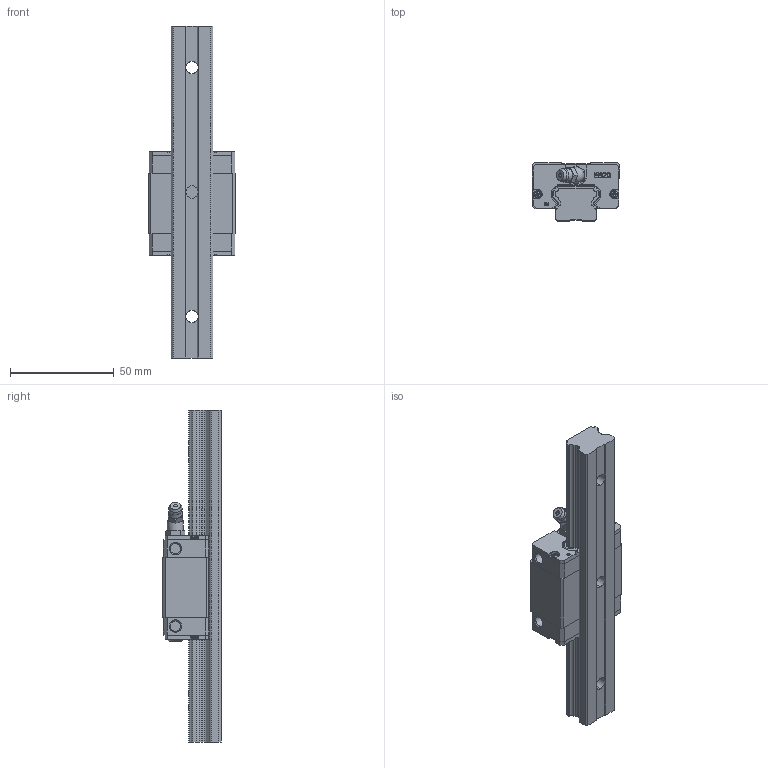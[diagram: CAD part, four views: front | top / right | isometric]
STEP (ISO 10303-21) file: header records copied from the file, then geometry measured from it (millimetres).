
FILE_DESCRIPTION(/* description */ (''),/* implementation_level */ '2;1');
FILE_NAME(/* name */ 'EBH20SA.stp',/* time_stamp */ '2024-09-29T20:38:45+08:00',/* author */ (''),/* organization */ (''),/* preprocessor_version */ 'ST-DEVELOPER v16.7',/* originating_system */ 'SIEMENS PLM Software NX 12.0',/* authorisation */ '');
FILE_SCHEMA (('AUTOMOTIVE_DESIGN { 1 0 10303 214 3 1 1 1 }'));
Products named in the file (3): EBH20SA; EBR20; EBH20SA_stp
Assembly tree (2 placements, depth 2):
  EBH20SA_stp
    EBR20
    EBH20SA
Bounding box: 42 x 28 x 160 mm (x, y, z)
Volume: 77985.2 mm3; surface area: 24271.7 mm2
Topology: 2 solids, 8 shells, 921 faces, 2446 edges, 1586 vertices
Faces by surface type: plane 525, cylinder 161, extrusion 140, cone 48, bspline 31, torus 13, sphere 3
Full cylindrical faces by diameter (mm): 2.5 x4, 3 x1, 3.7 x1, 5 x4, 6 x2, 7.8 x1, 8.3 x1
Entity records: 63335 total; most frequent: CARTESIAN_POINT 35632, ORIENTED_EDGE 4814, DIRECTION 3812, EDGE_CURVE 2407, VERTEX_POINT 1589, VECTOR 1564, LINE 1424, AXIS2_PLACEMENT_3D 1124
